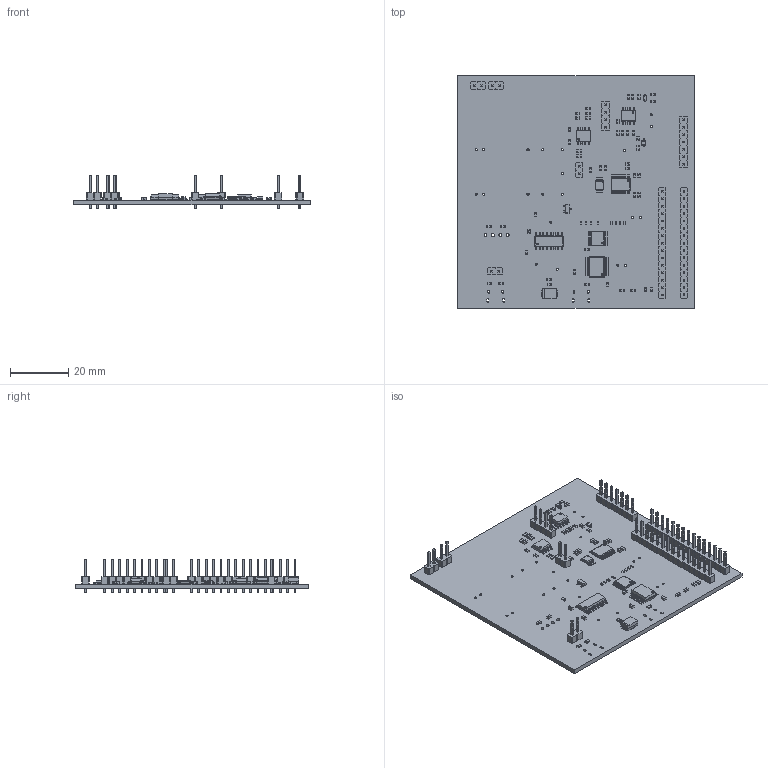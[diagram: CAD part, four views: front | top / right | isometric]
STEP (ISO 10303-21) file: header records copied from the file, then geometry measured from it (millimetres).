
FILE_DESCRIPTION(('KiCad electronic assembly'),'2;1');
FILE_NAME('Assorbitore.step','2023-06-08T09:41:50',('An Author'),( 'A Company'),'Open CASCADE STEP processor 6.9', 'KiCad to STEP converter','Unknown');
FILE_SCHEMA(('AUTOMOTIVE_DESIGN { 1 0 10303 214 1 1 1 1 }'));
Length unit declared in the file: millimetre
Products named in the file (34): Open CASCADE STEP translator 6.9 1; SOT-23; SOLID; SOIC-16_3.9x9.9mm_P1.27mm; SOIC-8_3.9x4.9mm_P1.27mm; R_0603_1608Metric; PinHeader_1x02_P2.54mm_Vertical; C_0603_1608Metric; R_0402_1005Metric; TSSOP-20_4.4x6.5mm_P0.65mm; VSSOP-8_3.0x3.0mm_P0.65mm; TSSOP-16_4.4x5mm_P0.65mm; SSOP-20_5.3x7.2mm_P0.65mm; PinHeader_1x04_P2.54mm_Vertical; PinHeader_1x07_P2.54mm_Vertical; PinHeader_1x15_P2.54mm_Vertical; D_SOD-323; D_SMB; COMPOUND
Assembly tree (91 placements, depth 3):
  Open CASCADE STEP translator 6.9 1
    SOT-23
      SOLID
    SOIC-16_3.9x9.9mm_P1.27mm
      SOLID
    SOIC-8_3.9x4.9mm_P1.27mm  x2
      SOLID
    R_0603_1608Metric  x26
      SOLID
    PinHeader_1x02_P2.54mm_Vertical  x4
      SOLID
    C_0603_1608Metric  x21
      SOLID
    R_0402_1005Metric  x8
      SOLID
    TSSOP-20_4.4x6.5mm_P0.65mm
      SOLID
    VSSOP-8_3.0x3.0mm_P0.65mm
      SOLID
    TSSOP-16_4.4x5mm_P0.65mm
      SOLID
    SSOP-20_5.3x7.2mm_P0.65mm
      SOLID
    PinHeader_1x04_P2.54mm_Vertical
      SOLID
    PinHeader_1x07_P2.54mm_Vertical
      SOLID
    PinHeader_1x15_P2.54mm_Vertical  x2
      SOLID
    D_SOD-323  x2
      SOLID
    D_SMB
      SOLID
    COMPOUND
Bounding box: 81.3 x 79.93 x 11.54 mm (x, y, z)
Volume: 11609.6 mm3; surface area: 17339.1 mm2
Topology: 75 solids, 75 shells, 4719 faces, 12067 edges, 7648 vertices
Faces by surface type: plane 3341, cylinder 1037, bspline 341
Full cylindrical faces by diameter (mm): 0.25 x1, 0.5 x3, 0.6 x3, 0.7 x13, 0.762 x8, 1 x53
Entity records: 183557 total; most frequent: CARTESIAN_POINT 32760, DIRECTION 24288, LINE 17089, VECTOR 17089, ORIENTED_EDGE 13300, PCURVE 13300, DEFINITIONAL_REPRESENTATION 13300, EDGE_CURVE 6650
